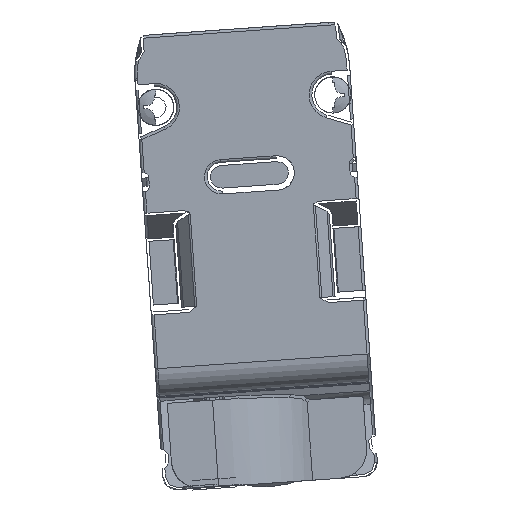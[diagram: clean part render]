
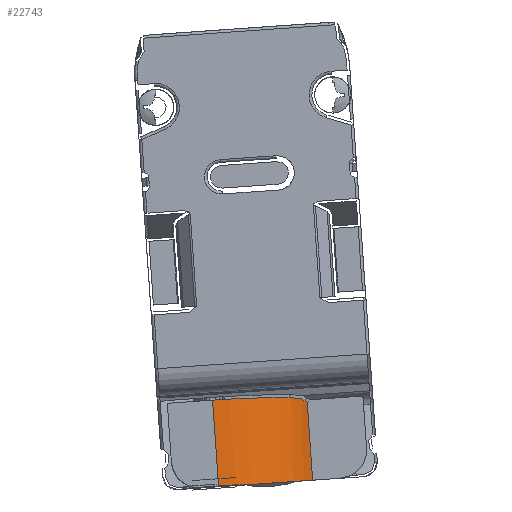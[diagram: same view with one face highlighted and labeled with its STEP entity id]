
A CAD part, front view. The second image highlights one B-rep face of the part: STEP entity #22743.
In plain terms, the highlighted cylindrical face has radius 7.5 mm (diameter 15 mm), a partial arc.
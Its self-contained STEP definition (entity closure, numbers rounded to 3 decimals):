
#21681=DIRECTION('',(-0.07,0.,0.998));
#21682=VECTOR('',#21681,5.56);
#21683=CARTESIAN_POINT('',(-40.701,-920.597,
14.888));
#21684=LINE('',#21683,#21682);
#21688=DIRECTION('',(0.07,0.,-0.998));
#21689=VECTOR('',#21688,6.214);
#21690=CARTESIAN_POINT('',(-47.863,-924.818,
20.616));
#21691=LINE('',#21690,#21689);
#21695=CARTESIAN_POINT('',(-47.863,-924.818,
20.616));
#21696=CARTESIAN_POINT('',(-47.616,-924.818,
20.634));
#21697=CARTESIAN_POINT('',(-47.119,-924.794,
20.666));
#21698=CARTESIAN_POINT('',(-46.371,-924.681,
20.708));
#21699=CARTESIAN_POINT('',(-45.632,-924.491,
20.743));
#21700=CARTESIAN_POINT('',(-44.911,-924.225,
20.769));
#21701=CARTESIAN_POINT('',(-44.218,-923.886,
20.787));
#21702=CARTESIAN_POINT('',(-43.563,-923.478,
20.796));
#21703=CARTESIAN_POINT('',(-42.955,-923.006,
20.796));
#21704=CARTESIAN_POINT('',(-42.4,-922.477,
20.788));
#21705=CARTESIAN_POINT('',(-41.906,-921.9,
20.77));
#21706=CARTESIAN_POINT('',(-41.619,-921.489,
20.753));
#21707=CARTESIAN_POINT('',(-41.487,-921.278,
20.743));
#21712=CARTESIAN_POINT('',(-41.487,-921.278,
20.743));
#21713=CARTESIAN_POINT('',(-41.453,-921.225,
20.741));
#21714=CARTESIAN_POINT('',(-41.39,-921.121,
20.728));
#21715=CARTESIAN_POINT('',(-41.301,-920.971,
20.685));
#21716=CARTESIAN_POINT('',(-41.22,-920.831,
20.621));
#21717=CARTESIAN_POINT('',(-41.149,-920.704,
20.536));
#21718=CARTESIAN_POINT('',(-41.108,-920.631,
20.471));
#21719=CARTESIAN_POINT('',(-41.088,-920.597,
20.435));
#22116=CARTESIAN_POINT('',(-47.43,-917.318,
14.418));
#22117=DIRECTION('',(0.07,0.,-0.998));
#22118=DIRECTION('',(0.897,-0.437,0.063));
#22119=AXIS2_PLACEMENT_3D('',#22116,#22117,#22118);
#22571=CARTESIAN_POINT('',(-40.701,-920.597,
14.888));
#22572=CARTESIAN_POINT('',(-41.088,-920.597,
20.435));
#22573=VERTEX_POINT('',#22571);
#22574=VERTEX_POINT('',#22572);
#22575=VERTEX_POINT('',#21712);
#22576=VERTEX_POINT('',#21695);
#22577=CARTESIAN_POINT('',(-47.43,-924.818,
14.418));
#22578=VERTEX_POINT('',#22577);
#22726=CARTESIAN_POINT('',(-52.434,-917.318,
85.982));
#22727=DIRECTION('',(0.07,0.,-0.998));
#22728=DIRECTION('',(0.,-1.,0.));
#22729=AXIS2_PLACEMENT_3D('',#22726,#22727,#22728);
#22730=CYLINDRICAL_SURFACE('',#22729,7.5);
#22732=ORIENTED_EDGE('',*,*,#22731,.F.);
#22734=ORIENTED_EDGE('',*,*,#22733,.T.);
#22736=ORIENTED_EDGE('',*,*,#22735,.F.);
#22738=ORIENTED_EDGE('',*,*,#22737,.T.);
#22740=ORIENTED_EDGE('',*,*,#22739,.T.);
#22741=EDGE_LOOP('',(#22732,#22734,#22736,#22738,#22740));
#22742=FACE_OUTER_BOUND('',#22741,.F.);
#21708=B_SPLINE_CURVE_WITH_KNOTS('',3,(#21695,#21696,#21697,#21698,#21699,
#21700,#21701,#21702,#21703,#21704,#21705,#21706,#21707),.UNSPECIFIED.,.F.,.F.,(
4,1,1,1,1,1,1,1,1,1,4),(0.,0.1,0.2,0.3,0.4,0.5,0.6,0.7,0.8,
0.9,1.),.UNSPECIFIED.);
#21720=B_SPLINE_CURVE_WITH_KNOTS('',3,(#21712,#21713,#21714,#21715,#21716,
#21717,#21718,#21719),.UNSPECIFIED.,.F.,.F.,(4,1,1,1,1,4),(0.,0.2,0.4,
0.6,0.8,1.),.UNSPECIFIED.);
#22120=CIRCLE('',#22119,7.5);
#22731=EDGE_CURVE('',#22573,#22574,#21684,.T.);
#22733=EDGE_CURVE('',#22573,#22578,#22120,.T.);
#22735=EDGE_CURVE('',#22576,#22578,#21691,.T.);
#22737=EDGE_CURVE('',#22576,#22575,#21708,.T.);
#22739=EDGE_CURVE('',#22575,#22574,#21720,.T.);
#22743=ADVANCED_FACE('',(#22742),#22730,.T.);
